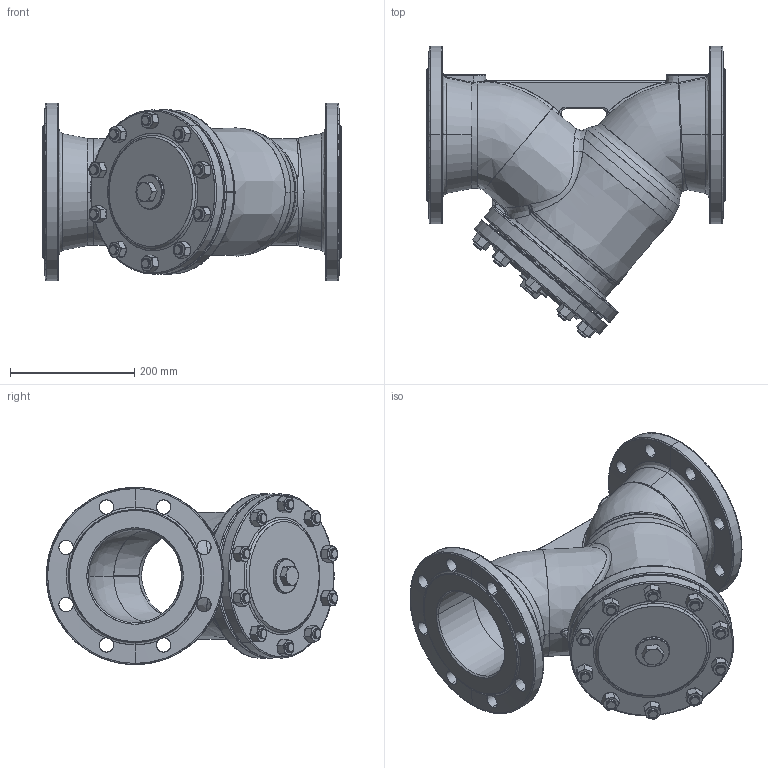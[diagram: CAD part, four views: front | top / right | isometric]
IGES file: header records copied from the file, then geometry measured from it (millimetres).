
Start section: SolidWorks IGES file using analytic representation for surfaces
Global section: file name: D:\katalog z³o¿eñ\00_Gotowe\821\RYSUNKI DXF\Z£O¯ENIA\Part\821_DN150_PN16.IGS; native system: SolidWorks 2010; preprocessor: SolidWorks 2010; author: alisowsk; date: 100108.130456; units: millimetre
Bounding box: 480 x 468.13 x 285 mm (x, y, z)
Surface area: 1099749.4 mm2 (no closed solid volume)
Topology: 0 solids, 0 shells, 1026 faces, 15305 edges, 15295 vertices
Faces by surface type: revolution 570, bspline 456
